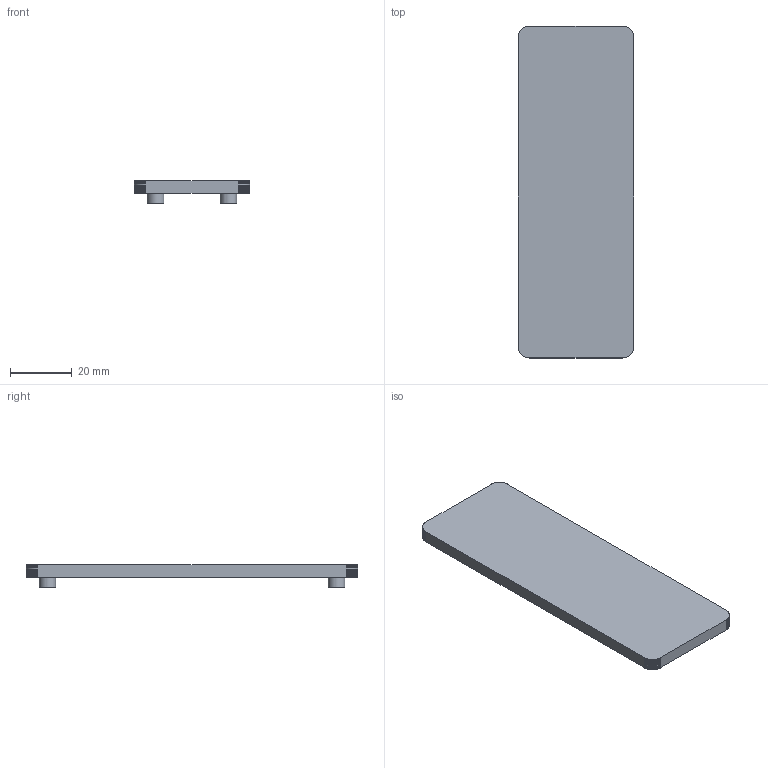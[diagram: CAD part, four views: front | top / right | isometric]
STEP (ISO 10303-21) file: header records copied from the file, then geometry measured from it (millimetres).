
FILE_DESCRIPTION(('Designed by EasyEDA Pro'),'2;1');
FILE_NAME('Open CASCADE Shape Model','2026-10-27T09:58:12',('Author'),( 'Open CASCADE'),'Open CASCADE STEP processor 7.8','Open CASCADE 7.8' ,'Unknown');
FILE_SCHEMA(('AUTOMOTIVE_DESIGN { 1 0 10303 214 1 1 1 1 }'));
Length unit declared in the file: millimetre
Products named in the file (1): Open CASCADE STEP translator 7.8 1
Bounding box: 37.5 x 107.5 x 7.2 mm (x, y, z)
Volume: 6787 mm3; surface area: 10268.7 mm2
Topology: 1 solids, 1 shells, 234 faces, 672 edges, 448 vertices
Faces by surface type: bspline 234
Entity records: 19772 total; most frequent: CARTESIAN_POINT 11003, B_SPLINE_CURVE_WITH_KNOTS 1984, ORIENTED_EDGE 1344, PCURVE 1344, DEFINITIONAL_REPRESENTATION 1344, EDGE_CURVE 672, SURFACE_CURVE 664, VERTEX_POINT 448
